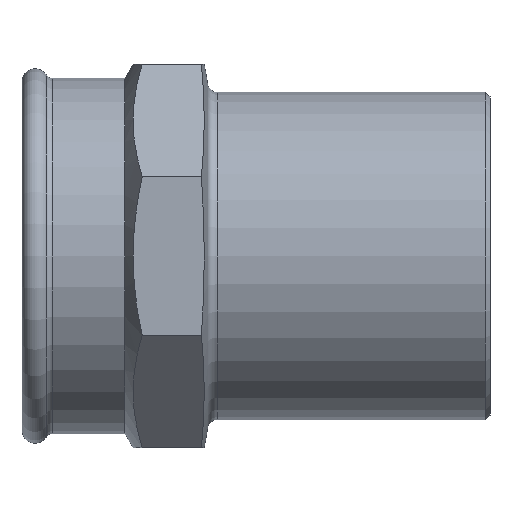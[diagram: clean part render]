
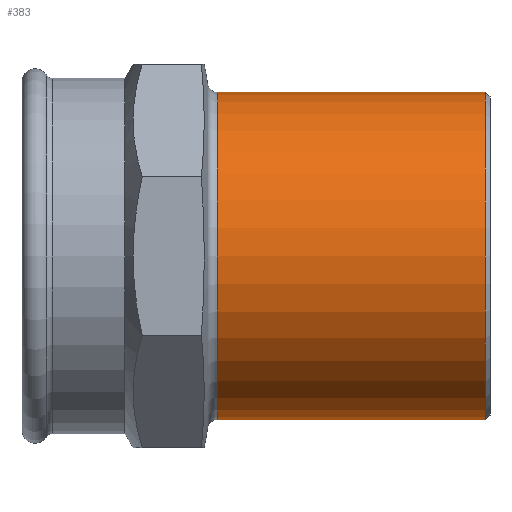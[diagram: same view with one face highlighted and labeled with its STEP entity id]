
A CAD part, left-side view. The second image highlights one B-rep face of the part: STEP entity #383.
In plain terms, the highlighted cylindrical face has radius 17.5 mm (diameter 35 mm), a partial arc.
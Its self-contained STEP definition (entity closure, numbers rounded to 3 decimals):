
#1 = VERTEX_POINT ( 'NONE', #743 ) ;
#30 = CARTESIAN_POINT ( 'NONE',  ( 0., -17.811, 17.5 ) ) ;
#55 = DIRECTION ( 'NONE',  ( 0., -1., 0. ) ) ;
#76 = CARTESIAN_POINT ( 'NONE',  ( 0., 29.161, -17.5 ) ) ;
#84 = ORIENTED_EDGE ( 'NONE', *, *, #696, .T. ) ;
#136 = VERTEX_POINT ( 'NONE', #1073 ) ;
#182 = ORIENTED_EDGE ( 'NONE', *, *, #488, .F. ) ;
#252 = DIRECTION ( 'NONE',  ( 0., 0., -1. ) ) ;
#291 = ORIENTED_EDGE ( 'NONE', *, *, #347, .F. ) ;
#341 = CARTESIAN_POINT ( 'NONE',  ( 0., -17.811, 0. ) ) ;
#347 = EDGE_CURVE ( 'NONE', #1, #525, #842, .T. ) ;
#369 = FACE_OUTER_BOUND ( 'NONE', #802, .T. ) ;
#378 = CARTESIAN_POINT ( 'NONE',  ( 0., 29.161, 0. ) ) ;
#383 = ADVANCED_FACE ( 'NONE', ( #369 ), #469, .T. ) ;
#426 = AXIS2_PLACEMENT_3D ( 'NONE', #876, #890, #918 ) ;
#467 = LINE ( 'NONE', #625, #835 ) ;
#469 = CYLINDRICAL_SURFACE ( 'NONE', #606, 17.5 ) ;
#488 = EDGE_CURVE ( 'NONE', #525, #136, #979, .T. ) ;
#493 = CIRCLE ( 'NONE', #868, 17.5 ) ;
#525 = VERTEX_POINT ( 'NONE', #978 ) ;
#558 = VECTOR ( 'NONE', #55, 1000. ) ;
#606 = AXIS2_PLACEMENT_3D ( 'NONE', #341, #915, #1020 ) ;
#625 = CARTESIAN_POINT ( 'NONE',  ( 0., -17.811, -17.5 ) ) ;
#631 = DIRECTION ( 'NONE',  ( 0., -1., 0. ) ) ;
#696 = EDGE_CURVE ( 'NONE', #1, #754, #493, .T. ) ;
#743 = CARTESIAN_POINT ( 'NONE',  ( 0., 29.161, 17.5 ) ) ;
#754 = VERTEX_POINT ( 'NONE', #76 ) ;
#802 = EDGE_LOOP ( 'NONE', ( #291, #84, #1095, #182 ) ) ;
#835 = VECTOR ( 'NONE', #1163, 1000. ) ;
#842 = LINE ( 'NONE', #30, #558 ) ;
#868 = AXIS2_PLACEMENT_3D ( 'NONE', #378, #631, #252 ) ;
#876 = CARTESIAN_POINT ( 'NONE',  ( 0., 0.5, 0. ) ) ;
#890 = DIRECTION ( 'NONE',  ( 0., -1., 0. ) ) ;
#915 = DIRECTION ( 'NONE',  ( 0., -1., 0. ) ) ;
#918 = DIRECTION ( 'NONE',  ( 0., 0., -1. ) ) ;
#978 = CARTESIAN_POINT ( 'NONE',  ( 0., 0.5, 17.5 ) ) ;
#979 = CIRCLE ( 'NONE', #426, 17.5 ) ;
#1020 = DIRECTION ( 'NONE',  ( 0., 0., -1. ) ) ;
#1073 = CARTESIAN_POINT ( 'NONE',  ( 0., 0.5, -17.5 ) ) ;
#1095 = ORIENTED_EDGE ( 'NONE', *, *, #1145, .T. ) ;
#1145 = EDGE_CURVE ( 'NONE', #754, #136, #467, .T. ) ;
#1163 = DIRECTION ( 'NONE',  ( 0., -1., 0. ) ) ;
